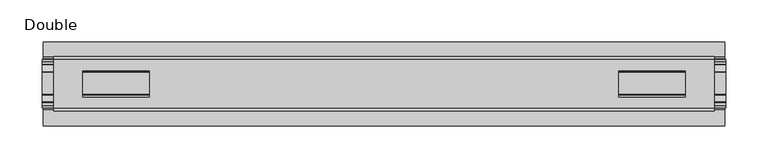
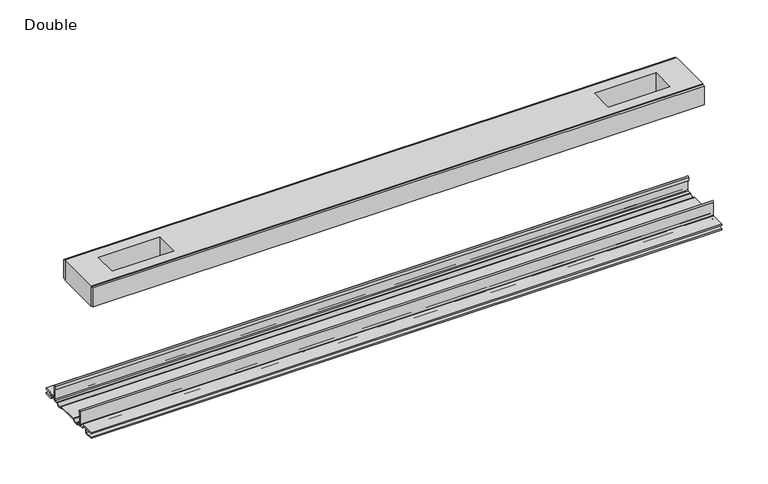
"""IFC4 building model written with IfcOpenShell, lengths in millimetres: proxy geometry, Frame-Teknion-FHCRA-Horizontal_Rail-R2022 : Double."""

from ifc_helpers import new_model, si_unit, point, frame, frame_2d, origin, place, context, project, spatial, polyline, circle_curve, trimmed, segment, composite_curve, outline, extrude, source, transform, mapped, element, save


def double_2a00bdfe(model_context):
    return source(origin(), model_context, "Body", "SweptSolid", [
        extrude(outline(polyline([(393.0660555, -29.0068005), (393.0660555, -32.1817997), (-393.0660555, -32.1817997), (-393.0660555, -29.0068005), (393.0660555, -29.0068005)])), frame((0.0, 0.0, 149.8401622), z_axis=(0.0, 0.0, 1.0), x_axis=(1.0, 0.0, 0.0)), (0.0, 0.0, 1.0), 25.3999939),
        extrude(outline(polyline([(393.0660555, 32.1817997), (393.0660555, 29.0068005), (-393.0660555, 29.0068005), (-393.0660555, 32.1817997), (393.0660555, 32.1817997)])), frame((0.0, 0.0, 149.8401622), z_axis=(0.0, 0.0, 1.0), x_axis=(1.0, 0.0, 0.0)), (0.0, 0.0, 1.0), 25.3999939),
        extrude(outline(polyline([(393.0660555, 29.0068005), (393.0660555, -29.0068005), (-393.0660555, -29.0068005), (-393.0660555, 29.0068005), (393.0660555, 29.0068005)]), holes=[polyline([(358.6490429, 15.1130038), (279.6042311, 15.1130038), (279.6042311, -15.875003), (358.6490429, -15.875003), (358.6490429, 15.1130038)]), polyline([(-358.6490429, 15.1130038), (-358.6490429, -15.875003), (-279.6042311, -15.875003), (-279.6042311, 15.1130038), (-358.6490429, 15.1130038)])]), frame((0.0, 0.0, 148.4185847), z_axis=(0.0, 0.0, 1.0), x_axis=(1.0, 0.0, 0.0)), (0.0, 0.0, 1.0), 27.9999988),
        extrude(outline(composite_curve([segment(polyline([(-28.8162961, -7.7516037), (-28.8162961, 9.8607558)]), True, "CONTINUOUS"), segment(trimmed(circle_curve(frame_2d((-27.5970982, 9.8607558)), 1.2191979), [point((-28.8162961, 9.8607558))], [point((-26.3779003, 9.8607558))], False, "CARTESIAN"), True, "CONTINUOUS"), segment(polyline([(-26.3779003, 9.8607558), (-26.3779003, 5.9999563), (-27.6580769, 5.9999563), (-27.6580769, -7.7516037)]), True, "CONTINUOUS"), segment(trimmed(circle_curve(frame_2d((-26.6420561, -7.7516037)), 1.0160208), [point((-27.6580769, -7.7516037))], [point((-26.6485732, -8.7676036))], True, "CARTESIAN"), True, "CONTINUOUS"), segment(polyline([(-26.6485732, -8.7676036), (-22.7056226, -8.7676036), (-21.7922609, -8.968753)]), True, "CONTINUOUS"), segment(trimmed(circle_curve(frame_2d((-17.7673021, -6.1259382)), 4.9276657), [point((-21.7922609, -8.968753))], [point((-13.7423434, -8.968753))], True, "CARTESIAN"), True, "CONTINUOUS"), segment(polyline([(-13.7423434, -8.968753), (-12.8289726, -8.7676036), (13.2099722, -8.7676036), (14.123343, -8.968753)]), True, "CONTINUOUS"), segment(trimmed(circle_curve(frame_2d((18.1483018, -6.1259382)), 4.9276657), [point((14.123343, -8.968753))], [point((22.1732605, -8.968753))], True, "CARTESIAN"), True, "CONTINUOUS"), segment(polyline([(22.1732605, -8.968753), (23.0866222, -8.7676036), (27.0295728, -8.7676036)]), True, "CONTINUOUS"), segment(trimmed(circle_curve(frame_2d((27.0230557, -7.7516037)), 1.0160208), [point((27.0295728, -8.7676036))], [point((28.0390765, -7.7516037))], True, "CARTESIAN"), True, "CONTINUOUS"), segment(polyline([(28.0390765, -7.7516037), (28.0390765, 5.9999563), (26.7588999, 5.9999563), (26.7588999, 9.8607558)]), True, "CONTINUOUS"), segment(trimmed(circle_curve(frame_2d((27.9780978, 9.8607558)), 1.2191979), [point((26.7588999, 9.8607558))], [point((29.1972958, 9.8607558))], False, "CARTESIAN"), True, "CONTINUOUS"), segment(polyline([(29.1972958, 9.8607558), (29.1972958, -7.7516037)]), True, "CONTINUOUS"), segment(trimmed(circle_curve(frame_2d((27.0230557, -7.7516037)), 2.17424), [point((29.1972958, -7.7516037))], [point((27.0230557, -9.9258438))], False, "CARTESIAN"), True, "CONTINUOUS"), segment(polyline([(27.0230557, -9.9258438), (22.732069, -9.9258438)]), True, "CONTINUOUS"), segment(trimmed(circle_curve(frame_2d((18.1516545, -6.4800016)), 5.7318431), [point((22.732069, -9.9258438))], [point((13.57124, -9.9258438))], False, "CARTESIAN"), True, "CONTINUOUS"), segment(polyline([(13.57124, -9.9258438), (-13.1902404, -9.9258438)]), True, "CONTINUOUS"), segment(trimmed(circle_curve(frame_2d((-17.7706549, -6.4800016)), 5.7318431), [point((-13.1902404, -9.9258438))], [point((-22.3510694, -9.9258438))], False, "CARTESIAN"), True, "CONTINUOUS"), segment(polyline([(-22.3510694, -9.9258438), (-26.6420561, -9.9258438)]), True, "CONTINUOUS"), segment(trimmed(circle_curve(frame_2d((-26.6420561, -7.7516037)), 2.17424), [point((-26.6420561, -9.9258438))], [point((-28.8162961, -7.7516037))], False, "CARTESIAN"), True, "CONTINUOUS")], self_intersect=False)), frame((-407.1249464, 0.0, 0.0), z_axis=(1.0, 0.0, 0.0), x_axis=(0.0, 1.0, 0.0)), (0.0, 0.0, 1.0), 814.2498928),
        extrude(outline(composite_curve([segment(polyline([(-50.2668422, -13.9898438), (-50.2240211, -12.3388438), (-39.7827507, -12.3388438), (-39.7827507, -7.766844), (-50.2240211, -7.766844), (-50.2668422, -6.1158439), (-31.1784975, -6.1158439)]), True, "CONTINUOUS"), segment(trimmed(circle_curve(frame_2d((-31.1784975, -7.6398436)), 1.5239997), [point((-31.1784975, -6.1158439))], [point((-29.6544978, -7.6398436))], False, "CARTESIAN"), True, "CONTINUOUS"), segment(polyline([(-29.6544978, -7.6398436), (-29.6544978, -9.9258438), (-23.1058344, -9.9258438)]), True, "CONTINUOUS"), segment(trimmed(circle_curve(frame_2d((-17.7673021, -5.2268471)), 7.1119966), [point((-23.1058344, -9.9258438))], [point((-12.4287699, -9.9258438))], True, "CARTESIAN"), True, "CONTINUOUS"), segment(polyline([(-12.4287699, -9.9258438), (12.8097695, -9.9258438)]), True, "CONTINUOUS"), segment(trimmed(circle_curve(frame_2d((18.1483018, -5.2268471)), 7.1119966), [point((12.8097695, -9.9258438))], [point((23.486834, -9.9258438))], True, "CARTESIAN"), True, "CONTINUOUS"), segment(polyline([(23.486834, -9.9258438), (30.0354975, -9.9258438), (30.0354975, -7.7656583)]), True, "CONTINUOUS"), segment(trimmed(circle_curve(frame_2d((31.6864982, -7.7656583)), 1.6510007), [point((30.0354975, -7.7656583))], [point((31.6239218, -6.1158439))], False, "CARTESIAN"), True, "CONTINUOUS"), segment(polyline([(31.6239218, -6.1158439), (50.00625, -6.1158439), (50.00625, -7.766844), (40.1637503, -7.766844), (40.1637503, -12.3388438), (50.00625, -12.3388438), (50.00625, -13.9898438), (40.0367518, -13.9898438)]), True, "CONTINUOUS"), segment(trimmed(circle_curve(frame_2d((40.0367518, -12.4658438)), 1.524), [point((40.0367518, -13.9898438))], [point((38.5127519, -12.4658438))], False, "CARTESIAN"), True, "CONTINUOUS"), segment(polyline([(38.5127519, -12.4658438), (38.5127519, -7.766844), (31.686497, -7.766844), (31.686497, -10.0528438)]), True, "CONTINUOUS"), segment(trimmed(circle_curve(frame_2d((30.1624971, -10.0528438)), 1.524), [point((31.686497, -10.0528438))], [point((30.1624971, -11.5768438))], False, "CARTESIAN"), True, "CONTINUOUS"), segment(polyline([(30.1624971, -11.5768438), (23.6563549, -11.5768438)]), True, "CONTINUOUS"), segment(trimmed(circle_curve(frame_2d((18.1483018, -6.4968436)), 7.4930002), [point((23.6563549, -11.5768438))], [point((12.8904968, -11.8354331))], False, "CARTESIAN"), True, "CONTINUOUS"), segment(polyline([(12.8904968, -11.8354331), (-12.5094972, -11.8354331)]), True, "CONTINUOUS"), segment(trimmed(circle_curve(frame_2d((-17.7673021, -6.4968436)), 7.4930002), [point((-12.5094972, -11.8354331))], [point((-23.2753553, -11.5768438))], False, "CARTESIAN"), True, "CONTINUOUS"), segment(polyline([(-23.2753553, -11.5768438), (-29.7814974, -11.5768438)]), True, "CONTINUOUS"), segment(trimmed(circle_curve(frame_2d((-29.7814974, -10.0528438)), 1.524), [point((-29.7814974, -11.5768438))], [point((-31.3054974, -10.0528438))], False, "CARTESIAN"), True, "CONTINUOUS"), segment(polyline([(-31.3054974, -10.0528438), (-31.3054974, -7.766844), (-38.1317522, -7.766844), (-38.1317522, -12.4658438)]), True, "CONTINUOUS"), segment(trimmed(circle_curve(frame_2d((-39.6557522, -12.4658438)), 1.524), [point((-38.1317522, -12.4658438))], [point((-39.6557522, -13.9898438))], False, "CARTESIAN"), True, "CONTINUOUS"), segment(polyline([(-39.6557522, -13.9898438), (-50.2668422, -13.9898438)]), True, "CONTINUOUS")], self_intersect=False)), frame((-405.4739464, 0.0, 0.0), z_axis=(1.0, 0.0, 0.0), x_axis=(0.0, 1.0, 0.0)), (0.0, 0.0, 1.0), 810.9478928),
    ])


if __name__ == "__main__":
    model = new_model("IFC4")
    model_context = context("Model", 3, world=origin())
    ifc_project = project(units=[si_unit("LENGTHUNIT", "METRE", prefix="MILLI")], contexts=[model_context])
    site = spatial("IfcSite", under=ifc_project)
    building = spatial("IfcBuilding", under=site)
    placement = place(None, origin())
    double_shape = double_2a00bdfe(model_context)
    element("IfcBuildingElementProxy", 1, Name="Frame-Teknion-FHCRA-Horizontal_Rail-R2022 : Double", ObjectType="Frame-Teknion-FHCRA-Horizontal_Rail-R2022 : Double", at=placement, inside=building, context=model_context, shape_type="MappedRepresentation", body=[
        mapped(double_shape, transform((0.0, 0.0, 0.0), x_axis=(1.0, 0.0, 0.0), y_axis=(0.0, 1.0, 0.0), z_axis=(0.0, 0.0, 1.0))),
    ])
    save(model, "model.ifc")
